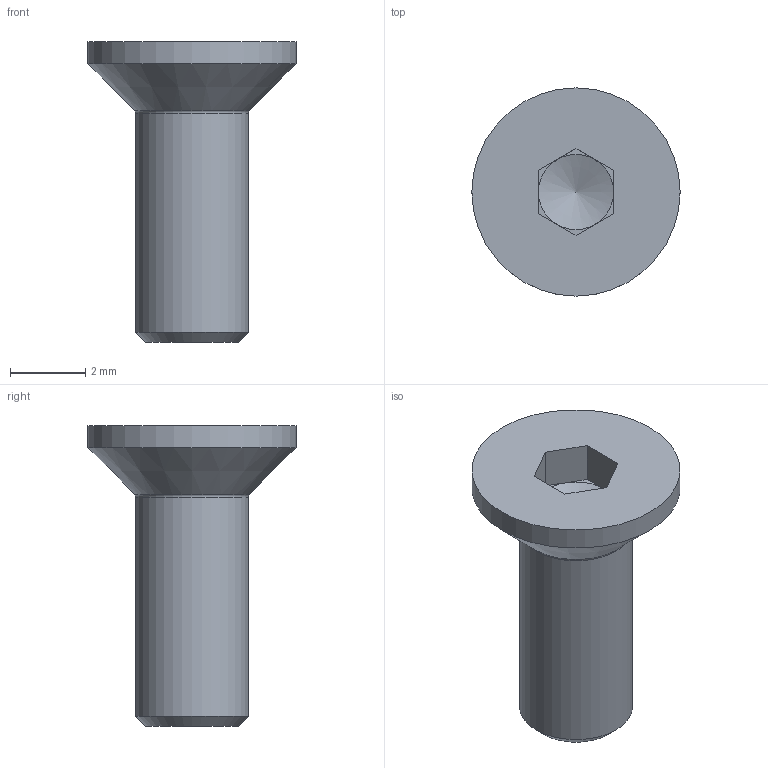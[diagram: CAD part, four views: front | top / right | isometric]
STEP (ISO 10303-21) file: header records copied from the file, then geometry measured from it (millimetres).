
FILE_DESCRIPTION(/* description */ ('STEP AP242 Edition 2','CAx-IF Rec.Pracs.---Representation and Presentation of Product Manufacturing Information (PMI)---4.0---2014-10-13','CAx-IF Rec.Pracs.---3D Tessellated Geometry---0.4---2014-09-14','2;1','CAx-IF Rec.Pracs.---User Defined Attributes---1.5---2016-08-15'),/* implementation_level */ '2;1');
FILE_NAME(/* name */ 'Assy_ForMFG - Hex socket countersunk head screw M3x0.5 x 8 (11)',/* time_stamp */ '2026-05-15T19:56:10Z',/* author */ (''),/* organization */ (''),/* preprocessor_version */ 'ST-DEVELOPER v20',/* originating_system */ 'ONSHAPE BY PTC INC, 1.215',/* authorisation */ ' ');
FILE_SCHEMA (('AP242_MANAGED_MODEL_BASED_3D_ENGINEERING_MIM_LF { 1 0 10303 442 3 1 4 }'));
Length unit declared in the file: metre
Products named in the file (1): Hex socket countersunk head screw M3x0.5 x 8
Bounding box: 5.54 x 5.54 x 8 mm (x, y, z)
Volume: 71.8 mm3; surface area: 129.6 mm2
Topology: 1 solids, 1 shells, 20 faces, 44 edges, 26 vertices
Faces by surface type: plane 14, cone 3, cylinder 2, torus 1
Full cylindrical faces by diameter (mm): 3 x1, 5.54 x1
Entity records: 518 total; most frequent: DIRECTION 90, CARTESIAN_POINT 82, ORIENTED_EDGE 72, EDGE_CURVE 36, AXIS2_PLACEMENT_3D 33, FACE_BOUND 27, EDGE_LOOP 26, VERTEX_POINT 25
